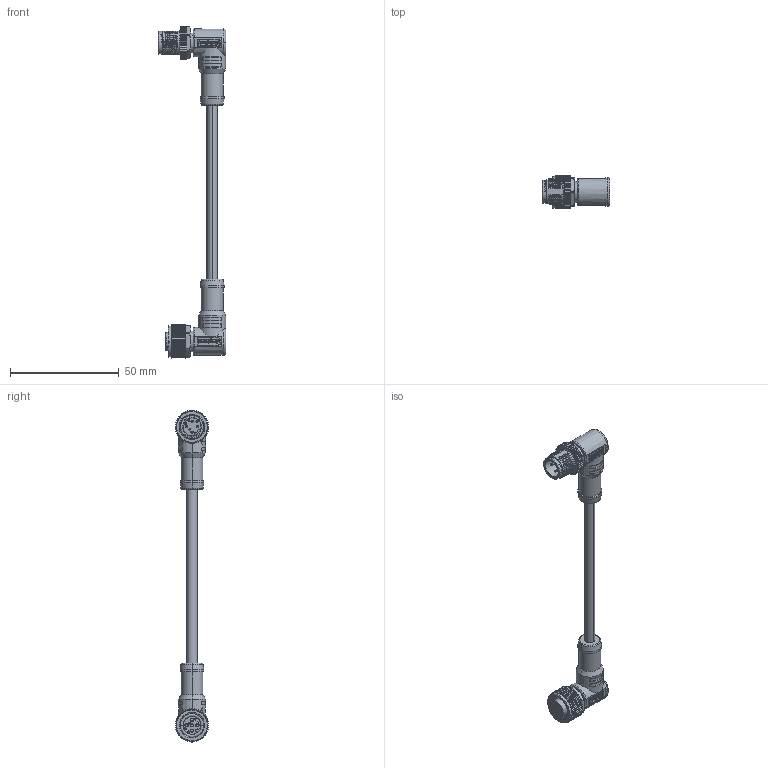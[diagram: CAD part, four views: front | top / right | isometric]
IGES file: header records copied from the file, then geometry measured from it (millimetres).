
Start section:  PTC IGES file: M12A04MR-12AFR-SDXXX-IGS.igs
Global section: file name: M12A04MR-12AFR-SDXXX-IGS.igs; native system: Creo Parametric by Parametric Technology Corporation; preprocessor: 2013050; author: K190067; organization: Unknown; date: 20190921.144714; units: millimetre
Bounding box: 31 x 15.29 x 152.6 mm (x, y, z)
Volume: 12441 mm3; surface area: 7304.7 mm2
Topology: 1 solids, 1 shells, 1593 faces, 4212 edges, 2715 vertices
Faces by surface type: bspline 969, revolution 450, extrusion 174
